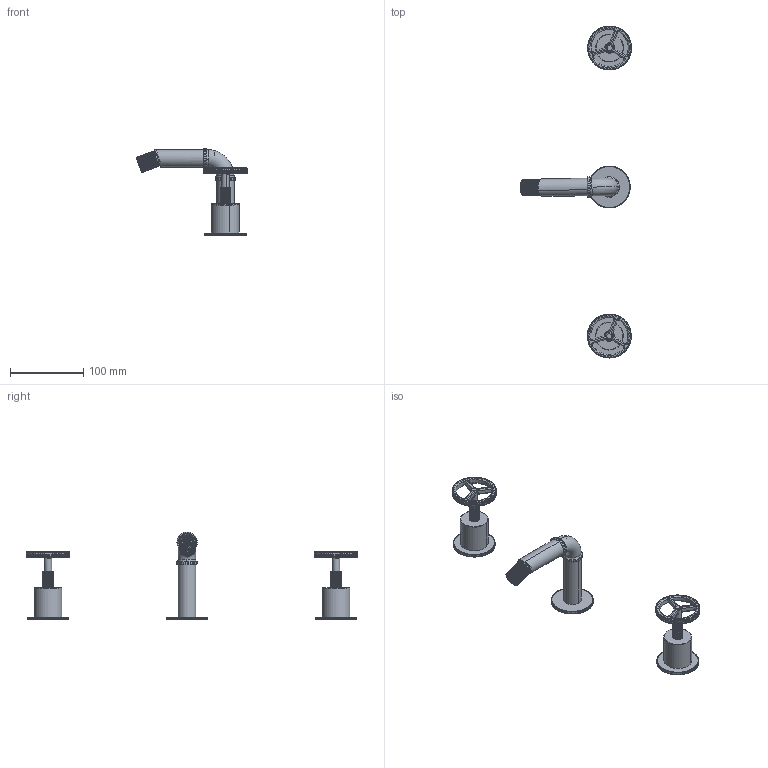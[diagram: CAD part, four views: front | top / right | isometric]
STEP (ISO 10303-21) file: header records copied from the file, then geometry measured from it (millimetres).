
FILE_DESCRIPTION (( 'STEP AP214' ), '1' );
FILE_NAME ('78423110 x architetti.SLDPRT.STEP', '2024-11-23T10:54:41', ( '' ), ( '' ), 'SwSTEP 2.0', 'SolidWorks 2020', '' );
FILE_SCHEMA (( 'AUTOMOTIVE_DESIGN' ));
Length unit declared in the file: millimetre
Products named in the file (3): 78423110 x architetti.SLDPRT; F0004210       ; 78423110 x architetti
Assembly tree (2 placements, depth 2):
  78423110 x architetti.SLDPRT
    78423110 x architetti
    F0004210       
Bounding box: 151.74 x 453.42 x 120 mm (x, y, z)
Volume: 215109.6 mm3; surface area: 85899.8 mm2
Topology: 3 solids, 24 shells, 5644 faces, 14835 edges, 9368 vertices
Faces by surface type: cylinder 2842, bspline 1457, torus 704, plane 489, cone 152
Full cylindrical faces by diameter (mm): 15.1 x2
Entity records: 297336 total; most frequent: CARTESIAN_POINT 132058, ORIENTED_EDGE 29575, DIRECTION 20193, EDGE_CURVE 14797, VERTEX_POINT 9367, AXIS2_PLACEMENT_3D 8387, B_SPLINE_CURVE_WITH_KNOTS 6978, EDGE_LOOP 5855
